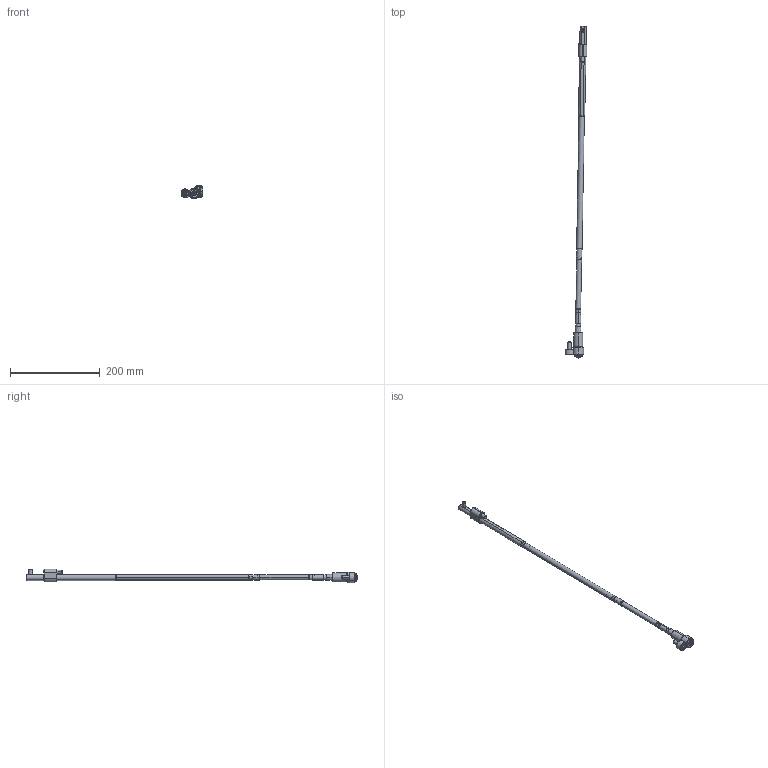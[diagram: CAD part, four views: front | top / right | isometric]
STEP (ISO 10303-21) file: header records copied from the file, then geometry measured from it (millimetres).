
FILE_DESCRIPTION (( 'STEP AP214' ), '1' );
FILE_NAME ('WL120100-EJE 1°.STEP', '2021-03-19T15:33:18', ( '' ), ( '' ), 'SwSTEP 2.0', 'SolidWorks 2019', '' );
FILE_SCHEMA (( 'AUTOMOTIVE_DESIGN' ));
Length unit declared in the file: millimetre
Products named in the file (17): Web-WL12-A2; 1DIN912820_DIN 912 M8 x 20 --- 20C; Web-WL12-F01; Web-WL12-A1; 9DR2808-TOR; Web-WL12-XX_ON-WL120100-1; Web-WL12-A8; Web-WL12-F00.SLDPRT; Web-WL12-A3; WL120100-B; WL120100-B1; WL120100-E; 8WL12EJEP; WL120100-EJE 1°; 1DIN912645_DIN 912 M6 x 45 --- 45C; 3IMAN5X3-150_con sellador; WL120100-D
Assembly tree (16 placements, depth 3):
  WL120100-EJE 1°
    Web-WL12-A8
    Web-WL12-XX_ON-WL120100-1
    Web-WL12-A3
    Web-WL12-A2
    Web-WL12-A1
    Web-WL12-F00.SLDPRT
      Web-WL12-F01
      1DIN912820_DIN 912 M8 x 20 --- 20C
      1DIN912645_DIN 912 M6 x 45 --- 45C
    WL120100-D
    8WL12EJEP
    WL120100-E
    9DR2808-TOR
    WL120100-B
      WL120100-B1
      3IMAN5X3-150_con sellador
Bounding box: 48.66 x 738.02 x 29.9 mm (x, y, z)
Volume: 113342.1 mm3; surface area: 49842.5 mm2
Topology: 15 solids, 15 shells, 432 faces, 906 edges, 525 vertices
Faces by surface type: plane 139, cylinder 123, cone 120, torus 50
Entity records: 13661 total; most frequent: DIRECTION 2240, CARTESIAN_POINT 2104, ORIENTED_EDGE 1788, AXIS2_PLACEMENT_3D 929, EDGE_CURVE 894, VERTEX_POINT 525, EDGE_LOOP 477, CIRCLE 476
